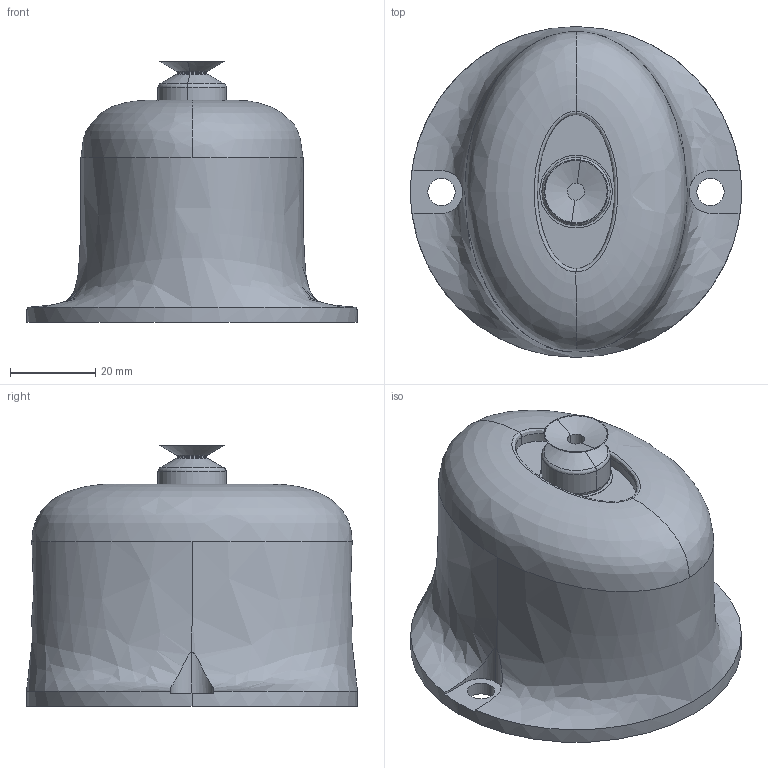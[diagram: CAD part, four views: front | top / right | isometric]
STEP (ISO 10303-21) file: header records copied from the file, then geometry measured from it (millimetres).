
FILE_DESCRIPTION (( 'STEP AP203' ), '1' );
FILE_NAME ('实心吸头.STEP', '2022-05-06T07:20:45', ( '' ), ( '' ), 'SwSTEP 2.0', 'SolidWorks 2019', '' );
FILE_SCHEMA (( 'CONFIG_CONTROL_DESIGN' ));
Length unit declared in the file: millimetre
Products named in the file (2): 妗陑柲芛
Bounding box: 77.5 x 77.5 x 61.1 mm (x, y, z)
Volume: 161702.1 mm3; surface area: 19608.9 mm2
Topology: 1 solids, 1 shells, 60 faces, 136 edges, 83 vertices
Faces by surface type: cylinder 21, plane 13, torus 12, bspline 8, cone 6
Entity records: 13151 total; most frequent: CARTESIAN_POINT 11669, DIRECTION 285, ORIENTED_EDGE 272, EDGE_CURVE 136, AXIS2_PLACEMENT_3D 123, VERTEX_POINT 83, EDGE_LOOP 69, CIRCLE 69
